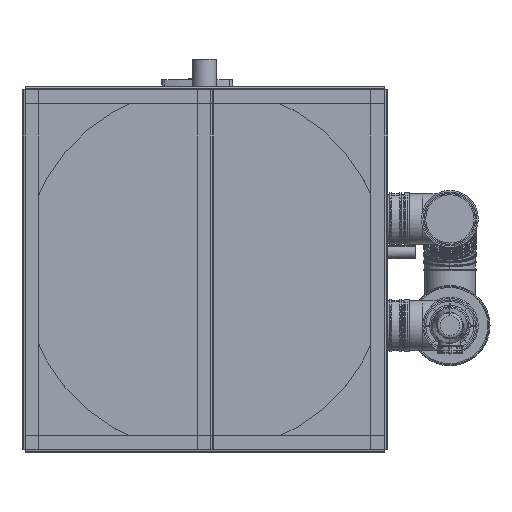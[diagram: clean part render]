
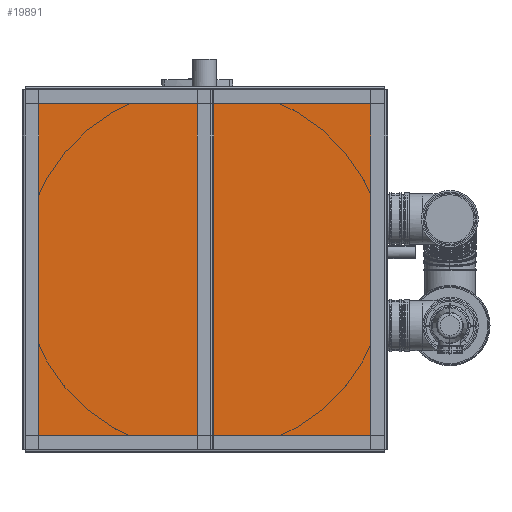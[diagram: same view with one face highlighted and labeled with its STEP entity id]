
A CAD part, front view. The second image highlights one B-rep face of the part: STEP entity #19891.
In plain terms, the highlighted planar face has unit normal (0, -1, 0).
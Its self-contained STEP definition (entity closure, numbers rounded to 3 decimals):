
#1248 = CARTESIAN_POINT ( 'NONE',  ( 0., -3., 0. ) ) ;
#1553 = CARTESIAN_POINT ( 'NONE',  ( 354., -3., 354. ) ) ;
#2032 = CARTESIAN_POINT ( 'NONE',  ( 354., -3., -354. ) ) ;
#2392 = VECTOR ( 'NONE', #49429, 1000. ) ;
#2632 = CARTESIAN_POINT ( 'NONE',  ( 354., -3., -354. ) ) ;
#3350 = EDGE_CURVE ( 'NONE', #57920, #66971, #49145, .T. ) ;
#4365 = VECTOR ( 'NONE', #50819, 1000. ) ;
#6647 = PLANE ( 'NONE',  #25915 ) ;
#6887 = VERTEX_POINT ( 'NONE', #1553 ) ;
#6986 = ORIENTED_EDGE ( 'NONE', *, *, #8367, .F. ) ;
#7660 = VECTOR ( 'NONE', #11674, 1000. ) ;
#8242 = CARTESIAN_POINT ( 'NONE',  ( -354., -3., -354. ) ) ;
#8367 = EDGE_CURVE ( 'NONE', #17271, #57920, #18153, .T. ) ;
#8957 = DIRECTION ( 'NONE',  ( 1., 0., 0. ) ) ;
#11674 = DIRECTION ( 'NONE',  ( 0., 0., 1. ) ) ;
#11888 = DIRECTION ( 'NONE',  ( 0., -1., 0. ) ) ;
#16191 = LINE ( 'NONE', #2632, #2392 ) ;
#17271 = VERTEX_POINT ( 'NONE', #2032 ) ;
#18153 = LINE ( 'NONE', #39966, #4365 ) ;
#19412 = ORIENTED_EDGE ( 'NONE', *, *, #51840, .F. ) ;
#19627 = CARTESIAN_POINT ( 'NONE',  ( 354., -3., 354. ) ) ;
#19891 = ADVANCED_FACE ( 'NONE', ( #61916 ), #6647, .T. ) ;
#23199 = VECTOR ( 'NONE', #8957, 1000. ) ;
#25915 = AXIS2_PLACEMENT_3D ( 'NONE', #1248, #11888, #48255 ) ;
#32224 = EDGE_CURVE ( 'NONE', #6887, #17271, #16191, .T. ) ;
#32648 = ORIENTED_EDGE ( 'NONE', *, *, #3350, .F. ) ;
#34414 = CARTESIAN_POINT ( 'NONE',  ( -354., -3., 354. ) ) ;
#37850 = CARTESIAN_POINT ( 'NONE',  ( -354., -3., -354. ) ) ;
#39966 = CARTESIAN_POINT ( 'NONE',  ( 354., -3., -354. ) ) ;
#48255 = DIRECTION ( 'NONE',  ( 0., 0., -1. ) ) ;
#49145 = LINE ( 'NONE', #37850, #7660 ) ;
#49429 = DIRECTION ( 'NONE',  ( 0., 0., -1. ) ) ;
#50819 = DIRECTION ( 'NONE',  ( -1., 0., 0. ) ) ;
#50834 = LINE ( 'NONE', #19627, #23199 ) ;
#51840 = EDGE_CURVE ( 'NONE', #66971, #6887, #50834, .T. ) ;
#56655 = ORIENTED_EDGE ( 'NONE', *, *, #32224, .F. ) ;
#57920 = VERTEX_POINT ( 'NONE', #8242 ) ;
#61916 = FACE_OUTER_BOUND ( 'NONE', #65262, .T. ) ;
#65262 = EDGE_LOOP ( 'NONE', ( #32648, #6986, #56655, #19412 ) ) ;
#66971 = VERTEX_POINT ( 'NONE', #34414 ) ;
